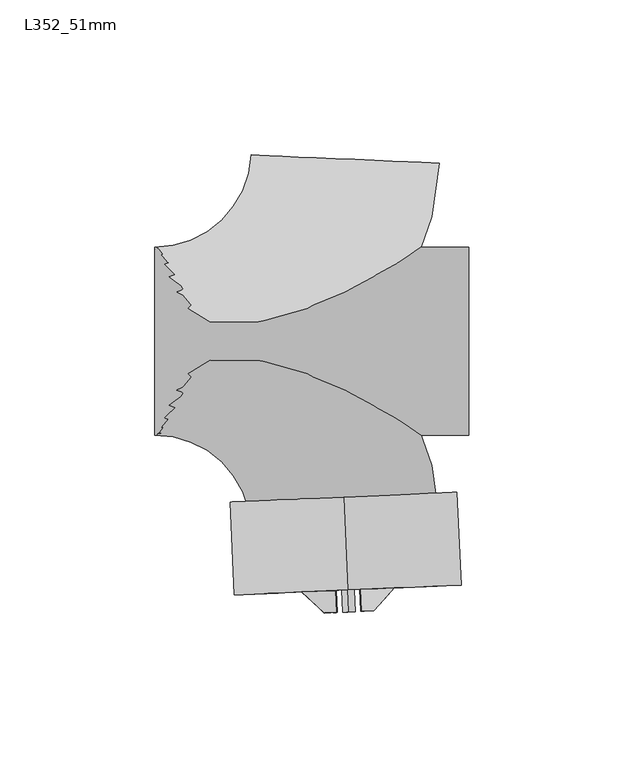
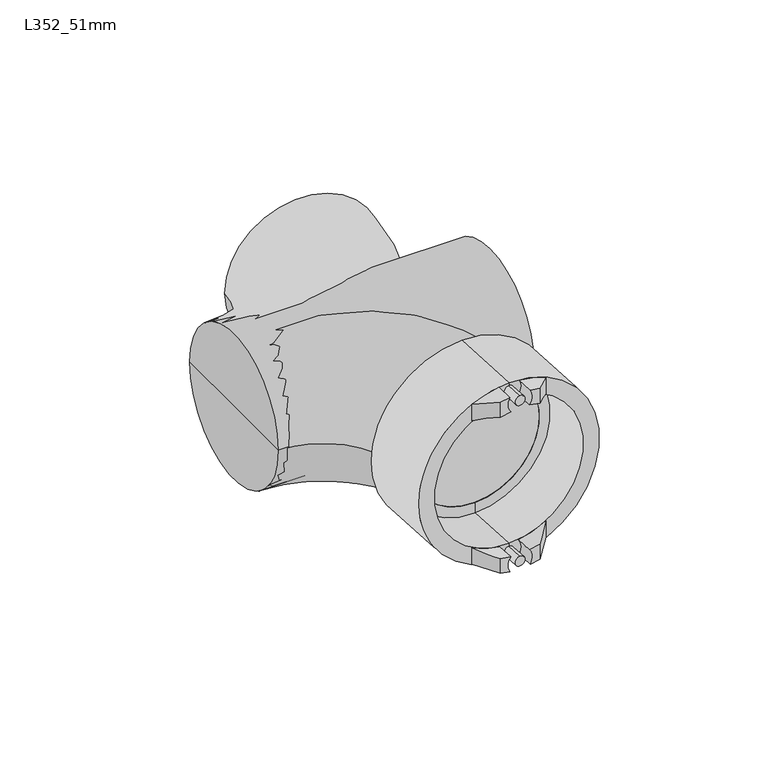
"""IFC4 building model written with IfcOpenShell, lengths in millimetres: pipe fitting geometry, Durapipe_PipeFitting_VulcatheneEnfusion_DoubleBranch_L35 : L352_51mm."""

from ifc_helpers import new_model, si_unit, point, frame, frame_2d, origin, place, context, project, spatial, polyline, circle_curve, ellipse_curve, trimmed, segment, composite_curve, outline, extrude, source, transform, mapped, element, save
from ifc_brep_helpers import plane_surface, cylinder_surface, revolved_surface, advanced_brep


def l352_51mm_6a39cfd9(model_context):
    return source(origin(), model_context, "Body", "SolidModel", [
        advanced_brep(
        [(7.6020236, -87.2291402, -30.2636186), (7.9619075, -87.2134273, -36.3136186), (11.7481671, -87.0481156, -35.6771481), (11.7481671, -87.0481156, -29.4483684), (18.4917499, -79.6469204, -33.330204), (7.6522099, -80.1201849, -36.3136186), (7.2923259, -80.1358978, -30.2636186), (18.4917499, -79.6469204, -26.5565434)],
        [
            (0, 1, circle_curve(frame((3.8157242, -87.3944536, -33.525), z_axis=(-0.04361938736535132, 0.9990482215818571, 0.0), x_axis=(0.0, 0.0, 1.0)), 5.0)),
            (1, 2, circle_curve(frame((3.8157242, -87.3944536, 0.0), z_axis=(0.04361938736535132, -0.9990482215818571, 0.0), x_axis=(0.0, 0.0, 1.0)), 36.55)),
            (2, 3),
            (3, 0, circle_curve(frame((3.8157242, -87.3944536, 0.0), z_axis=(-0.04361938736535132, 0.9990482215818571, 0.0), x_axis=(0.0, 0.0, 1.0)), 30.5)),
            (4, 5, circle_curve(frame((3.5060266, -80.3012112, 0.0), z_axis=(-0.04361938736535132, 0.9990482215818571, 0.0), x_axis=(0.0, 0.0, 1.0)), 36.55)),
            (5, 6, circle_curve(frame((3.5060266, -80.3012112, -33.525), z_axis=(0.04361938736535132, -0.9990482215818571, 0.0), x_axis=(0.0, 0.0, 1.0)), 5.0)),
            (6, 7, circle_curve(frame((3.5060266, -80.3012112, 0.0), z_axis=(0.04361938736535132, -0.9990482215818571, 0.0), x_axis=(0.0, 0.0, 1.0)), 30.5)),
            (7, 4),
            (6, 0),
            (3, 7, ellipse_curve(frame((4.1640244, -95.3718395, 0.0), z_axis=(0.739182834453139, -0.6735048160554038, 0.0), x_axis=(0.6735048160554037, 0.7391828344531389, 0.0)), 43.2558775, 30.5)),
            (4, 2, ellipse_curve(frame((4.1640244, -95.3718395, 0.0), z_axis=(-0.739182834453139, 0.6735048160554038, 0.0), x_axis=(-0.6735048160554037, -0.7391828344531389, 0.0)), 51.8361417, 36.55)),
            (1, 5),
        ],
        [
            plane_surface(frame((18.8014476, -86.7401628, -33.330204), z_axis=(0.04361938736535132, -0.9990482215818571, 0.0), x_axis=(0.0, 0.0, 1.0))),
            plane_surface(frame((18.4917499, -79.6469204, -33.330204), z_axis=(-0.04361938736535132, 0.9990482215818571, 0.0), x_axis=(0.0, 0.0, -1.0))),
            revolved_surface(polyline([(2.8260954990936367, -64.72822867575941, 30.5), (5.50195338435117, -126.0154503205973, 30.5)]), (3.5060266, -80.3012112, 0.0), (-0.04361938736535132, 0.9990482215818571, 0.0)),
            cylinder_surface(frame((3.5060266, -80.3012112, 0.0), z_axis=(0.04361938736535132, -0.9990482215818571, 0.0), x_axis=(0.0, 0.0, 1.0)), 36.55),
            revolved_surface(polyline([(3.8157242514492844, -87.39445359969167, -28.525), (3.5060265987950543, -80.30121117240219, -28.525)]), (3.5060266, -80.3012112, -33.525), (0.04361938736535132, -0.9990482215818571, 0.0)),
            plane_surface(frame((18.4917499, -79.6469204, 36.55), z_axis=(0.739182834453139, -0.6735048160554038, 0.0), x_axis=(0.0, 0.0, -1.0))),
        ],
        [
            (0, [[1, 2, 3, 4]]),
            (1, [[5, 6, 7, 8]]),
            (2, [[-7, 9, -4, 10]]),
            (3, [[-5, 11, -2, 12]]),
            (4, [[-1, -9, -6, -12]]),
            (5, [[-3, -11, -8, -10]]),
        ],
    ),
        advanced_brep(
        [(-0.3304591, -87.5754798, -36.3136186), (0.0294249, -87.559767, -30.2636186), (-4.1167186, -87.7407915, -29.4483684), (-4.1167186, -87.7407915, -35.6771481), (-0.6401567, -80.4822375, -36.3136186), (-11.4796967, -80.955502, -33.330204), (-11.4796967, -80.955502, -26.5565434), (-0.2802727, -80.4665246, -30.2636186)],
        [
            (0, 1, circle_curve(frame((3.8157242, -87.3944536, -33.525), z_axis=(-0.04361938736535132, 0.9990482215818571, 0.0), x_axis=(0.0, 0.0, 1.0)), 5.0)),
            (1, 2, circle_curve(frame((3.8157242, -87.3944536, 0.0), z_axis=(-0.04361938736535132, 0.9990482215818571, 0.0), x_axis=(0.0, 0.0, 1.0)), 30.5)),
            (2, 3),
            (3, 0, circle_curve(frame((3.8157242, -87.3944536, 0.0), z_axis=(0.04361938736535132, -0.9990482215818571, 0.0), x_axis=(0.0, 0.0, 1.0)), 36.55)),
            (4, 5, circle_curve(frame((3.5060266, -80.3012112, 0.0), z_axis=(-0.04361938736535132, 0.9990482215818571, 0.0), x_axis=(0.0, 0.0, 1.0)), 36.55)),
            (5, 6),
            (6, 7, circle_curve(frame((3.5060266, -80.3012112, 0.0), z_axis=(0.04361938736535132, -0.9990482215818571, 0.0), x_axis=(0.0, 0.0, 1.0)), 30.5)),
            (7, 4, circle_curve(frame((3.5060266, -80.3012112, -33.525), z_axis=(0.04361938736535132, -0.9990482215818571, 0.0), x_axis=(0.0, 0.0, 1.0)), 5.0)),
            (6, 2, ellipse_curve(frame((4.1640244, -95.3718395, 0.0), z_axis=(-0.677670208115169, -0.7353659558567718, 0.0), x_axis=(-0.7353659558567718, 0.6776702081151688, 0.0)), 43.2558775, 30.5)),
            (1, 7),
            (4, 0),
            (3, 5, ellipse_curve(frame((4.1640244, -95.3718395, 0.0), z_axis=(0.677670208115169, 0.7353659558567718, 0.0), x_axis=(0.7353659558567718, -0.6776702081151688, 0.0)), 51.8361417, 36.55)),
        ],
        [
            plane_surface(frame((18.8014476, -86.7401628, -33.330204), z_axis=(0.04361938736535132, -0.9990482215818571, 0.0), x_axis=(0.0, 0.0, 1.0))),
            plane_surface(frame((18.4917499, -79.6469204, -33.330204), z_axis=(-0.04361938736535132, 0.9990482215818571, 0.0), x_axis=(0.0, 0.0, -1.0))),
            revolved_surface(polyline([(2.8260954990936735, -64.72822867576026, 30.5), (5.501953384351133, -126.01545032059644, 30.5)]), (3.5060266, -80.3012112, 0.0), (-0.04361938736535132, 0.9990482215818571, 0.0)),
            cylinder_surface(frame((3.5060266, -80.3012112, 0.0), z_axis=(0.04361938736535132, -0.9990482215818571, 0.0), x_axis=(0.0, 0.0, 1.0)), 36.55),
            revolved_surface(polyline([(3.815724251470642, -87.39445360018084, -28.525), (3.5060266, -80.3012112, -28.525)]), (3.5060266, -80.3012112, -33.525), (0.04361938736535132, -0.9990482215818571, 0.0)),
            plane_surface(frame((-4.1167186, -87.7407915, 36.55), z_axis=(-0.677670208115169, -0.7353659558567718, 0.0), x_axis=(0.0, 0.0, -1.0))),
        ],
        [
            (0, [[1, 2, 3, 4]]),
            (1, [[5, 6, 7, 8]]),
            (2, [[-7, 9, -2, 10]]),
            (3, [[-5, 11, -4, 12]]),
            (4, [[-1, -11, -8, -10]]),
            (5, [[-3, -9, -6, -12]]),
        ],
    ),
        advanced_brep(
        [(7.9619075, -87.2134273, 36.3136186), (7.6020236, -87.2291402, 30.2636186), (11.7481671, -87.0481156, 29.4483684), (11.7481671, -87.0481156, 35.6771481), (7.6522099, -80.1201849, 36.3136186), (18.4917499, -79.6469204, 33.330204), (18.4917499, -79.6469204, 26.5565434), (7.2923259, -80.1358978, 30.2636186)],
        [
            (0, 1, circle_curve(frame((3.8157242, -87.3944536, 33.525), z_axis=(-0.04361938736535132, 0.9990482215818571, 0.0), x_axis=(0.0, 0.0, 1.0)), 5.0)),
            (1, 2, circle_curve(frame((3.8157242, -87.3944536, 0.0), z_axis=(-0.04361938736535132, 0.9990482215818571, 0.0), x_axis=(0.0, 0.0, 1.0)), 30.5)),
            (2, 3),
            (3, 0, circle_curve(frame((3.8157242, -87.3944536, 0.0), z_axis=(0.04361938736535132, -0.9990482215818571, 0.0), x_axis=(0.0, 0.0, 1.0)), 36.55)),
            (4, 5, circle_curve(frame((3.5060266, -80.3012112, 0.0), z_axis=(-0.04361938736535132, 0.9990482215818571, 0.0), x_axis=(0.0, 0.0, 1.0)), 36.55)),
            (5, 6),
            (6, 7, circle_curve(frame((3.5060266, -80.3012112, 0.0), z_axis=(0.04361938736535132, -0.9990482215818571, 0.0), x_axis=(0.0, 0.0, 1.0)), 30.5)),
            (7, 4, circle_curve(frame((3.5060266, -80.3012112, 33.525), z_axis=(0.04361938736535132, -0.9990482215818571, 0.0), x_axis=(0.0, 0.0, 1.0)), 5.0)),
            (6, 2, ellipse_curve(frame((4.1640244, -95.3718395, 0.0), z_axis=(0.739182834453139, -0.6735048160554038, 0.0), x_axis=(0.6735048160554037, 0.7391828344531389, 0.0)), 43.2558775, 30.5)),
            (1, 7),
            (4, 0),
            (3, 5, ellipse_curve(frame((4.1640244, -95.3718395, 0.0), z_axis=(-0.739182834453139, 0.6735048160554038, 0.0), x_axis=(-0.6735048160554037, -0.7391828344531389, 0.0)), 51.8361417, 36.55)),
        ],
        [
            plane_surface(frame((18.8014476, -86.7401628, -33.330204), z_axis=(0.04361938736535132, -0.9990482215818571, 0.0), x_axis=(0.0, 0.0, 1.0))),
            plane_surface(frame((18.4917499, -79.6469204, -33.330204), z_axis=(-0.04361938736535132, 0.9990482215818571, 0.0), x_axis=(0.0, 0.0, -1.0))),
            revolved_surface(polyline([(2.8260954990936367, -64.72822867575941, 30.5), (5.50195338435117, -126.0154503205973, 30.5)]), (3.5060266, -80.3012112, 0.0), (-0.04361938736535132, 0.9990482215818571, 0.0)),
            cylinder_surface(frame((3.5060266, -80.3012112, 0.0), z_axis=(0.04361938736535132, -0.9990482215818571, 0.0), x_axis=(0.0, 0.0, 1.0)), 36.55),
            revolved_surface(polyline([(3.8157242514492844, -87.39445359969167, 38.525), (3.5060265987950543, -80.30121117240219, 38.525)]), (3.5060266, -80.3012112, 33.525), (0.04361938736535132, -0.9990482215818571, 0.0)),
            plane_surface(frame((18.4917499, -79.6469204, 36.55), z_axis=(0.739182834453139, -0.6735048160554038, 0.0), x_axis=(0.0, 0.0, -1.0))),
        ],
        [
            (0, [[1, 2, 3, 4]]),
            (1, [[5, 6, 7, 8]]),
            (2, [[-7, 9, -2, 10]]),
            (3, [[-5, 11, -4, 12]]),
            (4, [[-1, -11, -8, -10]]),
            (5, [[-3, -9, -6, -12]]),
        ],
    ),
        advanced_brep(
        [(0.0294249, -87.559767, 30.2636186), (-0.3304591, -87.5754798, 36.3136186), (-4.1167186, -87.7407915, 35.6771481), (-4.1167186, -87.7407915, 29.4483684), (-11.4796967, -80.955502, 33.330204), (-0.6401567, -80.4822375, 36.3136186), (-0.2802727, -80.4665246, 30.2636186), (-11.4796967, -80.955502, 26.5565434)],
        [
            (0, 1, circle_curve(frame((3.8157242, -87.3944536, 33.525), z_axis=(-0.04361938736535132, 0.9990482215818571, 0.0), x_axis=(0.0, 0.0, 1.0)), 5.0)),
            (1, 2, circle_curve(frame((3.8157242, -87.3944536, 0.0), z_axis=(0.04361938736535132, -0.9990482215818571, 0.0), x_axis=(0.0, 0.0, 1.0)), 36.55)),
            (2, 3),
            (3, 0, circle_curve(frame((3.8157242, -87.3944536, 0.0), z_axis=(-0.04361938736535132, 0.9990482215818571, 0.0), x_axis=(0.0, 0.0, 1.0)), 30.5)),
            (4, 5, circle_curve(frame((3.5060266, -80.3012112, 0.0), z_axis=(-0.04361938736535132, 0.9990482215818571, 0.0), x_axis=(0.0, 0.0, 1.0)), 36.55)),
            (5, 6, circle_curve(frame((3.5060266, -80.3012112, 33.525), z_axis=(0.04361938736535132, -0.9990482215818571, 0.0), x_axis=(0.0, 0.0, 1.0)), 5.0)),
            (6, 7, circle_curve(frame((3.5060266, -80.3012112, 0.0), z_axis=(0.04361938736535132, -0.9990482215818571, 0.0), x_axis=(0.0, 0.0, 1.0)), 30.5)),
            (7, 4),
            (6, 0),
            (3, 7, ellipse_curve(frame((4.1640244, -95.3718395, 0.0), z_axis=(-0.677670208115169, -0.7353659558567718, 0.0), x_axis=(-0.7353659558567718, 0.6776702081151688, 0.0)), 43.2558775, 30.5)),
            (4, 2, ellipse_curve(frame((4.1640244, -95.3718395, 0.0), z_axis=(0.677670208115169, 0.7353659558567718, 0.0), x_axis=(0.7353659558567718, -0.6776702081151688, 0.0)), 51.8361417, 36.55)),
            (1, 5),
        ],
        [
            plane_surface(frame((18.8014476, -86.7401628, -33.330204), z_axis=(0.04361938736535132, -0.9990482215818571, 0.0), x_axis=(0.0, 0.0, 1.0))),
            plane_surface(frame((18.4917499, -79.6469204, -33.330204), z_axis=(-0.04361938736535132, 0.9990482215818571, 0.0), x_axis=(0.0, 0.0, -1.0))),
            revolved_surface(polyline([(2.8260954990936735, -64.72822867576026, 30.5), (5.501953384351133, -126.01545032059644, 30.5)]), (3.5060266, -80.3012112, 0.0), (-0.04361938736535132, 0.9990482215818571, 0.0)),
            cylinder_surface(frame((3.5060266, -80.3012112, 0.0), z_axis=(0.04361938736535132, -0.9990482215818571, 0.0), x_axis=(0.0, 0.0, 1.0)), 36.55),
            revolved_surface(polyline([(3.815724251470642, -87.39445360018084, 38.525), (3.5060266, -80.3012112, 38.525)]), (3.5060266, -80.3012112, 33.525), (0.04361938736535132, -0.9990482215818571, 0.0)),
            plane_surface(frame((-4.1167186, -87.7407915, 36.55), z_axis=(-0.677670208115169, -0.7353659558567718, 0.0), x_axis=(0.0, 0.0, -1.0))),
        ],
        [
            (0, [[1, 2, 3, 4]]),
            (1, [[5, 6, 7, 8]]),
            (2, [[-7, 9, -4, 10]]),
            (3, [[-5, 11, -2, 12]]),
            (4, [[-1, -9, -6, -12]]),
            (5, [[-3, -11, -8, -10]]),
        ],
    ),
        extrude(outline(composite_curve([segment(trimmed(circle_curve(frame_2d((0.0, -2.0)), 2.0), [point((0.0, -4.0))], [point((0.0, 0.0))], False, "CARTESIAN"), True, "CONTINUOUS"), segment(trimmed(circle_curve(frame_2d((0.0, -2.0)), 2.0), [point((0.0, 0.0))], [point((0.0, -4.0))], False, "CARTESIAN"), True, "CONTINUOUS")], self_intersect=False)), frame((3.8157242, -87.3944536, -31.525), z_axis=(-0.04361938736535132, 0.9990482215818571, 0.0), x_axis=(-0.9990482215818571, -0.04361938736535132, 0.0)), (0.0, 0.0, 1.0), 7.1),
        extrude(outline(composite_curve([segment(trimmed(circle_curve(frame_2d((0.0, 65.05)), 2.0), [point((0.0, 63.05))], [point((0.0, 67.05))], False, "CARTESIAN"), True, "CONTINUOUS"), segment(trimmed(circle_curve(frame_2d((0.0, 65.05)), 2.0), [point((0.0, 67.05))], [point((0.0, 63.05))], False, "CARTESIAN"), True, "CONTINUOUS")], self_intersect=False)), frame((3.8157242, -87.3944536, -31.525), z_axis=(-0.04361938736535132, 0.9990482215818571, 0.0), x_axis=(-0.9990482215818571, -0.04361938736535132, 0.0)), (0.0, 0.0, 1.0), 7.1),
        advanced_brep(
        [(2.5638478, -58.7217696, -26.15), (2.5638478, -58.7217696, 26.15), (2.5638478, -58.7217696, 30.35), (2.5638478, -58.7217696, -30.35), (2.197445, -50.3297646, -26.15), (2.197445, -50.3297646, 26.15), (2.197445, -50.3297646, -36.7), (2.197445, -50.3297646, 36.7), (3.5060266, -80.3012112, -36.7), (3.5060266, -80.3012112, 36.7), (3.5060266, -80.3012112, -30.35), (3.5060266, -80.3012112, 30.35)],
        [
            (0, 1, circle_curve(frame((2.5638478, -58.7217696, 0.0), z_axis=(-0.04361938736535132, 0.9990482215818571, 0.0), x_axis=(0.0, 0.0, 1.0)), 26.15)),
            (1, 2),
            (2, 3, circle_curve(frame((2.5638478, -58.7217696, 0.0), z_axis=(0.04361938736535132, -0.9990482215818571, 0.0), x_axis=(0.0, 0.0, 1.0)), 30.35)),
            (3, 0),
            (1, 0, circle_curve(frame((2.5638478, -58.7217696, 0.0), z_axis=(-0.04361938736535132, 0.9990482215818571, 0.0), x_axis=(0.0, 0.0, 1.0)), 26.15)),
            (3, 2, circle_curve(frame((2.5638478, -58.7217696, 0.0), z_axis=(0.04361938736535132, -0.9990482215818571, 0.0), x_axis=(0.0, 0.0, 1.0)), 30.35)),
            (4, 5, circle_curve(frame((2.197445, -50.3297646, 0.0), z_axis=(-0.04361938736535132, 0.9990482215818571, 0.0), x_axis=(0.0, 0.0, 1.0)), 26.15)),
            (5, 1),
            (0, 4),
            (5, 4, circle_curve(frame((2.197445, -50.3297646, 0.0), z_axis=(-0.04361938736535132, 0.9990482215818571, 0.0), x_axis=(0.0, 0.0, 1.0)), 26.15)),
            (6, 7, circle_curve(frame((2.197445, -50.3297646, 0.0), z_axis=(-0.04361938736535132, 0.9990482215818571, 0.0), x_axis=(0.0, 0.0, 1.0)), 36.7)),
            (7, 5),
            (4, 6),
            (7, 6, circle_curve(frame((2.197445, -50.3297646, 0.0), z_axis=(-0.04361938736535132, 0.9990482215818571, 0.0), x_axis=(0.0, 0.0, 1.0)), 36.7)),
            (8, 9, circle_curve(frame((3.5060266, -80.3012112, 0.0), z_axis=(-0.04361938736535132, 0.9990482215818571, 0.0), x_axis=(0.0, 0.0, 1.0)), 36.7)),
            (9, 7),
            (6, 8),
            (9, 8, circle_curve(frame((3.5060266, -80.3012112, 0.0), z_axis=(-0.04361938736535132, 0.9990482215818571, 0.0), x_axis=(0.0, 0.0, 1.0)), 36.7)),
            (10, 11, circle_curve(frame((3.5060266, -80.3012112, 0.0), z_axis=(-0.04361938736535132, 0.9990482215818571, 0.0), x_axis=(0.0, 0.0, 1.0)), 30.35)),
            (11, 9),
            (8, 10),
            (11, 10, circle_curve(frame((3.5060266, -80.3012112, 0.0), z_axis=(-0.04361938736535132, 0.9990482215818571, 0.0), x_axis=(0.0, 0.0, 1.0)), 30.35)),
            (2, 11),
            (10, 3),
        ],
        [
            plane_surface(frame((2.5638478, -58.7217696, 0.0), z_axis=(0.04361938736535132, -0.9990482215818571, 0.0), x_axis=(0.0, 0.0, 1.0))),
            revolved_surface(polyline([(2.5638478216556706, -58.72176959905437, 26.15), (2.1974449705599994, -50.329764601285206, 26.15)]), (113.1644085, -2591.8910809, 0.0), (0.04361938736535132, -0.9990482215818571, 0.0)),
            plane_surface(frame((2.197445, -50.3297646, 0.0), z_axis=(-0.04361938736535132, 0.9990482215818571, 0.0), x_axis=(0.0, 0.0, 1.0))),
            cylinder_surface(frame((113.1644085, -2591.8910809, 0.0), z_axis=(0.04361938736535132, -0.9990482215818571, 0.0), x_axis=(0.0, 0.0, 1.0)), 36.7),
            plane_surface(frame((3.5060266, -80.3012112, 0.0), z_axis=(0.04361938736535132, -0.9990482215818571, 0.0), x_axis=(0.0, 0.0, 1.0))),
            revolved_surface(polyline([(3.5060265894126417, -80.30121120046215, 30.35), (2.5638478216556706, -58.72176959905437, 30.35)]), (113.1644085, -2591.8910809, 0.0), (0.04361938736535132, -0.9990482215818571, 0.0)),
        ],
        [
            (0, [[1, 2, 3, 4]]),
            (0, [[5, -4, 6, -2]]),
            (1, [[7, 8, -1, 9]]),
            (1, [[10, -9, -5, -8]]),
            (2, [[11, 12, -7, 13]]),
            (2, [[14, -13, -10, -12]]),
            (3, [[15, 16, -11, 17]]),
            (3, [[18, -17, -14, -16]]),
            (4, [[19, 20, -15, 21]]),
            (4, [[22, -21, -18, -20]]),
            (5, [[-3, 23, -19, 24]]),
            (5, [[-6, -24, -22, -23]]),
        ],
    ),
        advanced_brep(
        [(-58.777713, 0.0, 0.0), (-58.777713, 30.35, 0.0), (-58.777713, -30.35, 0.0), (42.422287, -30.35, 0.0), (42.422287, 30.35, 0.0), (42.422287, 0.0, 0.0)],
        [
            (0, 1),
            (1, 2, circle_curve(frame((-58.777713, 0.0, 0.0), z_axis=(-1.0, 0.0, 0.0), x_axis=(0.0, 1.0, 0.0)), 30.35)),
            (2, 0),
            (2, 1, circle_curve(frame((-58.777713, 0.0, 0.0), z_axis=(-1.0, 0.0, 0.0), x_axis=(0.0, 1.0, 0.0)), 30.35)),
            (3, 4, circle_curve(frame((42.422287, 0.0, 0.0), z_axis=(1.0, 0.0, 0.0), x_axis=(0.0, 1.0, 0.0)), 30.35)),
            (4, 5),
            (5, 3),
            (4, 3, circle_curve(frame((42.422287, 0.0, 0.0), z_axis=(1.0, 0.0, 0.0), x_axis=(0.0, 1.0, 0.0)), 30.35)),
            (1, 4),
            (3, 2),
        ],
        [
            plane_surface(frame((-58.777713, 0.0, 0.0), z_axis=(-1.0, 0.0, 0.0), x_axis=(0.0, 1.0, 0.0))),
            plane_surface(frame((42.422287, 0.0, 0.0), z_axis=(1.0, 0.0, 0.0), x_axis=(0.0, 1.0, 0.0))),
            cylinder_surface(frame((1549.001924, 0.0, 0.0), z_axis=(-1.0, 0.0, 0.0), x_axis=(0.0, 1.0, 0.0)), 30.35),
        ],
        [
            (0, [[1, 2, 3]]),
            (0, [[-3, 4, -1]]),
            (1, [[5, 6, 7]]),
            (1, [[8, -7, -6]]),
            (2, [[-2, 9, -5, 10]]),
            (2, [[-4, -10, -8, -9]]),
        ],
    ),
        advanced_brep(
        [(-58.777713, -30.35, 0.0), (-58.777713, 30.35, 0.0), (-27.7572657, -60.045618, 0.0), (32.8849614, -57.3979212, 0.0)],
        [
            (0, 1, circle_curve(frame((-58.777713, 0.0, 0.0), z_axis=(-1.0, 0.0, 0.0), x_axis=(0.0, 1.0, 0.0)), 30.35)),
            (1, 0, circle_curve(frame((-58.777713, 0.0, 0.0), z_axis=(-1.0, 0.0, 0.0), x_axis=(0.0, 1.0, 0.0)), 30.35)),
            (2, 3, circle_curve(frame((2.5638478, -58.7217696, 0.0), z_axis=(0.0436193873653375, -0.9990482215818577, 0.0), x_axis=(0.9990482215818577, 0.0436193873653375, 0.0)), 30.35)),
            (3, 2, circle_curve(frame((2.5638478, -58.7217696, 0.0), z_axis=(0.0436193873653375, -0.9990482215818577, 0.0), x_axis=(0.9990482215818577, 0.0436193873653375, 0.0)), 30.35)),
            (3, 1, circle_curve(frame((-58.777713, -61.4, 0.0), z_axis=(0.0, 0.0, 1.0), x_axis=(0.0, 1.0, 0.0)), 91.75)),
            (0, 2, circle_curve(frame((-58.777713, -61.4, 0.0), z_axis=(0.0, 0.0, -1.0), x_axis=(0.0, 1.0, 0.0)), 31.05)),
        ],
        [
            plane_surface(frame((-58.777713, 0.0, 0.0), z_axis=(-1.0, 0.0, 0.0), x_axis=(0.0, 0.0, 1.0))),
            plane_surface(frame((2.5638478, -58.7217696, 0.0), z_axis=(0.043619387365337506, -0.9990482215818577, 0.0), x_axis=(0.0, 0.0, 1.0))),
            revolved_surface(trimmed(ellipse_curve(frame((-58.777713, 0.0, 0.0), z_axis=(-1.0, 0.0, 0.0), x_axis=(0.0, 1.0, 0.0)), 30.35, 30.35), [point((-58.777713, -30.35, 0.0))], [point((-58.777713, 30.35, 0.0))], True, "CARTESIAN"), (-58.777713, -61.4, 0.0), (0.0, 0.0, -1.0)),
            revolved_surface(trimmed(ellipse_curve(frame((-58.777713, 0.0, 0.0), z_axis=(-1.0, 0.0, 0.0), x_axis=(0.0, 1.0, 0.0)), 30.35, 30.35), [point((-58.777713, 30.35, 0.0))], [point((-58.777713, -30.35, 0.0))], True, "CARTESIAN"), (-58.777713, -61.4, 0.0), (0.0, 0.0, -1.0)),
        ],
        [
            (0, [[1, 2]]),
            (1, [[3, 4]]),
            (2, [[5, -1, 6, -4]]),
            (3, [[-6, -2, -5, -3]]),
        ],
    ),
        advanced_brep(
        [(-58.777713, -30.35, 0.0), (-58.777713, 30.35, 0.0), (32.8849614, 57.3979212, 0.0), (-27.7572657, 60.045618, 0.0)],
        [
            (0, 1, circle_curve(frame((-58.777713, 0.0, 0.0), z_axis=(-1.0, 0.0, 0.0), x_axis=(0.0, 1.0, 0.0)), 30.35)),
            (1, 0, circle_curve(frame((-58.777713, 0.0, 0.0), z_axis=(-1.0, 0.0, 0.0), x_axis=(0.0, 1.0, 0.0)), 30.35)),
            (2, 3, circle_curve(frame((2.5638478, 58.7217696, 0.0), z_axis=(0.04361938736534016, 0.9990482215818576, 0.0), x_axis=(-0.9990482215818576, 0.04361938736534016, 0.0)), 30.35)),
            (3, 2, circle_curve(frame((2.5638478, 58.7217696, 0.0), z_axis=(0.04361938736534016, 0.9990482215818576, 0.0), x_axis=(-0.9990482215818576, 0.04361938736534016, 0.0)), 30.35)),
            (3, 1, circle_curve(frame((-58.777713, 61.4, 0.0), z_axis=(0.0, 0.0, -1.0), x_axis=(0.0, -1.0, 0.0)), 31.05)),
            (0, 2, circle_curve(frame((-58.777713, 61.4, 0.0), z_axis=(0.0, 0.0, 1.0), x_axis=(0.0, -1.0, 0.0)), 91.75)),
        ],
        [
            plane_surface(frame((-58.777713, 0.0, 0.0), z_axis=(-1.0, 0.0, 0.0), x_axis=(0.0, 0.0, 1.0))),
            plane_surface(frame((2.5638478, 58.7217696, 0.0), z_axis=(0.04361938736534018, 0.9990482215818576, 0.0), x_axis=(0.0, 0.0, 1.0))),
            revolved_surface(trimmed(ellipse_curve(frame((-58.777713, 0.0, 0.0), z_axis=(-1.0, 0.0, 0.0), x_axis=(0.0, 1.0, 0.0)), 30.35, 30.35), [point((-58.777713, -30.35, 0.0))], [point((-58.777713, 30.35, 0.0))], True, "CARTESIAN"), (-58.777713, 61.4, 0.0), (0.0, 0.0, 1.0)),
            revolved_surface(trimmed(ellipse_curve(frame((-58.777713, 0.0, 0.0), z_axis=(-1.0, 0.0, 0.0), x_axis=(0.0, 1.0, 0.0)), 30.35, 30.35), [point((-58.777713, 30.35, 0.0))], [point((-58.777713, -30.35, 0.0))], True, "CARTESIAN"), (-58.777713, 61.4, 0.0), (0.0, 0.0, 1.0)),
        ],
        [
            (0, [[1, 2]]),
            (1, [[3, 4]]),
            (2, [[5, -1, 6, -4]]),
            (3, [[-6, -2, -5, -3]]),
        ],
    ),
    ])


if __name__ == "__main__":
    model = new_model("IFC4")
    model_context = context("Model", 3, world=origin())
    ifc_project = project(units=[si_unit("LENGTHUNIT", "METRE", prefix="MILLI")], contexts=[model_context])
    site = spatial("IfcSite", under=ifc_project)
    building = spatial("IfcBuilding", under=site)
    placement = place(None, origin())
    l352_51mm_shape = l352_51mm_6a39cfd9(model_context)
    element("IfcPipeFitting", 1, ObjectType="Durapipe_PipeFitting_VulcatheneEnfusion_DoubleBranch_L35 : L352_51mm", at=placement, inside=building, context=model_context, shape_type="MappedRepresentation", body=[
        mapped(l352_51mm_shape, transform((0.0, 0.0, 0.0), x_axis=(1.0, 0.0, 0.0), y_axis=(0.0, 1.0, 0.0), z_axis=(0.0, 0.0, 1.0))),
    ])
    save(model, "model.ifc")
